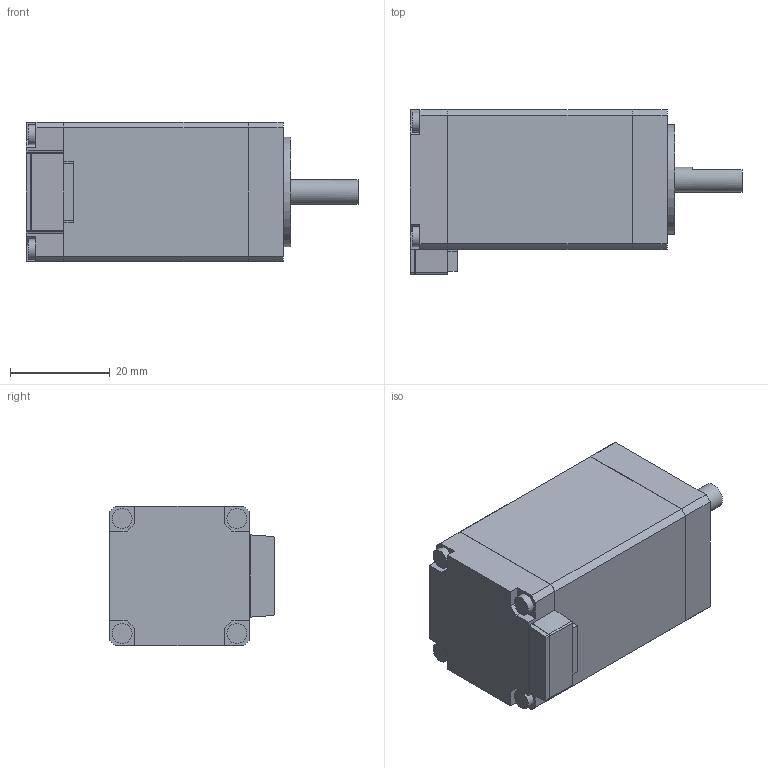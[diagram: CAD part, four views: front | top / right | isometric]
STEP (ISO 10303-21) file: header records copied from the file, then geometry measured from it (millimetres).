
FILE_DESCRIPTION( ( 'STEP AP203' ), '1' );
FILE_NAME( '//expscmdclustefs.cadenas.external/client_exchange/iodir/jobs/output/wkb75326216_no0/STEP/CVK525AK_2_03.stp', ' ', ( ' ' ), ( ' ' ), 'PSStep 15.0.47', 'PARTsolutions', ' ' );
FILE_SCHEMA( ( 'CONFIG_CONTROL_DESIGN' ) );
Length unit declared in the file: millimetre
Products named in the file (1): HI_CVK525AK
Bounding box: 66.5 x 33 x 28 mm (x, y, z)
Volume: 41583.8 mm3; surface area: 8041.7 mm2
Topology: 1 solids, 1 shells, 132 faces, 341 edges, 226 vertices
Faces by surface type: plane 79, cylinder 45, cone 8
Full cylindrical faces by diameter (mm): 0.5 x5, 2.013 x4, 4 x4, 5 x1, 22 x1
Entity records: 3896 total; most frequent: DIRECTION 670, CARTESIAN_POINT 663, ORIENTED_EDGE 618, EDGE_CURVE 309, AXIS2_PLACEMENT_3D 228, VERTEX_POINT 221, LINE 214, VECTOR 214
